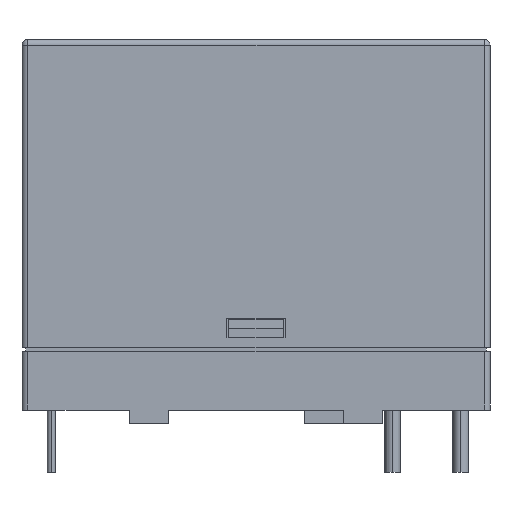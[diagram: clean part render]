
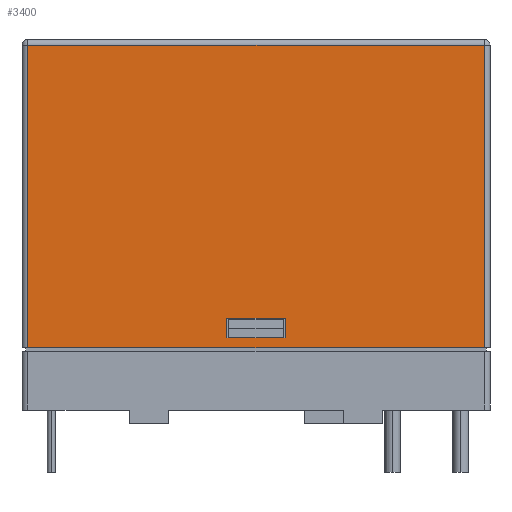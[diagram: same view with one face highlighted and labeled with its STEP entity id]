
A CAD part, front view. The second image highlights one B-rep face of the part: STEP entity #3400.
In plain terms, the highlighted planar face has unit normal (0, -1, 0) as drawn and (0, 0, 1) by its records, which use the part's own axes.
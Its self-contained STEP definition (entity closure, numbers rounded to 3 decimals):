
#355 = LINE ( 'NONE', #19114, #32609 ) ;
#954 = VECTOR ( 'NONE', #8146, 1000. ) ;
#962 = CARTESIAN_POINT ( 'NONE',  ( 1.5, 4.7, 5. ) ) ;
#1690 = PLANE ( 'NONE',  #28893 ) ;
#2263 = CARTESIAN_POINT ( 'NONE',  ( -1.5, 19., 5. ) ) ;
#2651 = CARTESIAN_POINT ( 'NONE',  ( -11.7, 19., 5. ) ) ;
#3158 = EDGE_CURVE ( 'NONE', #29574, #7954, #11122, .T. ) ;
#3400 = ADVANCED_FACE ( 'NONE', ( #33232, #14076 ), #1690, .F. ) ;
#4828 = CARTESIAN_POINT ( 'NONE',  ( -1.5, 4.7, 5. ) ) ;
#5325 = EDGE_CURVE ( 'NONE', #16718, #9853, #35896, .T. ) ;
#5339 = ORIENTED_EDGE ( 'NONE', *, *, #5325, .F. ) ;
#5516 = ORIENTED_EDGE ( 'NONE', *, *, #15256, .F. ) ;
#6107 = ORIENTED_EDGE ( 'NONE', *, *, #3158, .F. ) ;
#6555 = VERTEX_POINT ( 'NONE', #14437 ) ;
#6648 = VECTOR ( 'NONE', #24275, 1000. ) ;
#7867 = CARTESIAN_POINT ( 'NONE',  ( -11.7, 18.7, 5. ) ) ;
#7954 = VERTEX_POINT ( 'NONE', #22233 ) ;
#8146 = DIRECTION ( 'NONE',  ( 1., 0., 0. ) ) ;
#8276 = VERTEX_POINT ( 'NONE', #40100 ) ;
#8448 = EDGE_CURVE ( 'NONE', #35445, #6555, #40519, .T. ) ;
#8585 = VECTOR ( 'NONE', #23745, 1000. ) ;
#8975 = CARTESIAN_POINT ( 'NONE',  ( -1.5, 3.7, 5. ) ) ;
#9795 = DIRECTION ( 'NONE',  ( 0., -1., 0. ) ) ;
#9852 = CARTESIAN_POINT ( 'NONE',  ( -12., 4.7, 5. ) ) ;
#9853 = VERTEX_POINT ( 'NONE', #962 ) ;
#10719 = CARTESIAN_POINT ( 'NONE',  ( -12., 3.7, 5. ) ) ;
#10957 = CARTESIAN_POINT ( 'NONE',  ( 1.5, 3.7, 5. ) ) ;
#11122 = LINE ( 'NONE', #13902, #954 ) ;
#11265 = CARTESIAN_POINT ( 'NONE',  ( -12., 3.2, 5. ) ) ;
#11336 = EDGE_CURVE ( 'NONE', #7954, #8276, #12536, .T. ) ;
#12536 = LINE ( 'NONE', #21927, #36815 ) ;
#12562 = EDGE_CURVE ( 'NONE', #23168, #35445, #26029, .T. ) ;
#12781 = VECTOR ( 'NONE', #24854, 1000. ) ;
#13902 = CARTESIAN_POINT ( 'NONE',  ( -12., 3.7, 5. ) ) ;
#14076 = FACE_OUTER_BOUND ( 'NONE', #33713, .T. ) ;
#14437 = CARTESIAN_POINT ( 'NONE',  ( -11.7, 3.2, 5. ) ) ;
#15256 = EDGE_CURVE ( 'NONE', #6555, #39155, #31834, .T. ) ;
#15322 = ORIENTED_EDGE ( 'NONE', *, *, #34527, .F. ) ;
#15664 = DIRECTION ( 'NONE',  ( 0., 1., 0. ) ) ;
#15994 = VERTEX_POINT ( 'NONE', #4828 ) ;
#16074 = DIRECTION ( 'NONE',  ( -1., 0., 0. ) ) ;
#16718 = VERTEX_POINT ( 'NONE', #10957 ) ;
#17596 = ORIENTED_EDGE ( 'NONE', *, *, #31649, .F. ) ;
#19114 = CARTESIAN_POINT ( 'NONE',  ( -12., 18.7, 5. ) ) ;
#19672 = CARTESIAN_POINT ( 'NONE',  ( 1.5, 19., 5. ) ) ;
#21110 = CARTESIAN_POINT ( 'NONE',  ( 11.7, 3.2, 5. ) ) ;
#21927 = CARTESIAN_POINT ( 'NONE',  ( -12., 3.7, 5. ) ) ;
#21975 = EDGE_CURVE ( 'NONE', #8276, #16718, #39964, .T. ) ;
#22233 = CARTESIAN_POINT ( 'NONE',  ( -1.4, 3.7, 5. ) ) ;
#23168 = VERTEX_POINT ( 'NONE', #28174 ) ;
#23670 = DIRECTION ( 'NONE',  ( -1., 0., 0. ) ) ;
#23745 = DIRECTION ( 'NONE',  ( 1., 0., 0. ) ) ;
#23950 = EDGE_LOOP ( 'NONE', ( #15322, #5339, #37164, #26147, #6107, #25148 ) ) ;
#24275 = DIRECTION ( 'NONE',  ( -1., 0., 0. ) ) ;
#24854 = DIRECTION ( 'NONE',  ( 0., -1., 0. ) ) ;
#25148 = ORIENTED_EDGE ( 'NONE', *, *, #40931, .F. ) ;
#26029 = LINE ( 'NONE', #39048, #35564 ) ;
#26147 = ORIENTED_EDGE ( 'NONE', *, *, #11336, .F. ) ;
#28174 = CARTESIAN_POINT ( 'NONE',  ( 11.7, 18.7, 5. ) ) ;
#28893 = AXIS2_PLACEMENT_3D ( 'NONE', #37086, #40747, #23670 ) ;
#29574 = VERTEX_POINT ( 'NONE', #8975 ) ;
#31649 = EDGE_CURVE ( 'NONE', #39155, #23168, #355, .T. ) ;
#31682 = VECTOR ( 'NONE', #33670, 1000. ) ;
#31834 = LINE ( 'NONE', #2651, #38449 ) ;
#32609 = VECTOR ( 'NONE', #38524, 1000. ) ;
#33232 = FACE_BOUND ( 'NONE', #23950, .T. ) ;
#33670 = DIRECTION ( 'NONE',  ( 0., 1., 0. ) ) ;
#33713 = EDGE_LOOP ( 'NONE', ( #17596, #5516, #37865, #42055 ) ) ;
#34527 = EDGE_CURVE ( 'NONE', #9853, #15994, #39100, .T. ) ;
#35445 = VERTEX_POINT ( 'NONE', #21110 ) ;
#35564 = VECTOR ( 'NONE', #9795, 1000. ) ;
#35896 = LINE ( 'NONE', #19672, #31682 ) ;
#36815 = VECTOR ( 'NONE', #38567, 1000. ) ;
#36856 = VECTOR ( 'NONE', #16074, 1000. ) ;
#37086 = CARTESIAN_POINT ( 'NONE',  ( -12., 19., 5. ) ) ;
#37164 = ORIENTED_EDGE ( 'NONE', *, *, #21975, .F. ) ;
#37865 = ORIENTED_EDGE ( 'NONE', *, *, #8448, .F. ) ;
#38449 = VECTOR ( 'NONE', #15664, 1000. ) ;
#38524 = DIRECTION ( 'NONE',  ( 1., 0., 0. ) ) ;
#38567 = DIRECTION ( 'NONE',  ( 1., 0., 0. ) ) ;
#39048 = CARTESIAN_POINT ( 'NONE',  ( 11.7, 19., 5. ) ) ;
#39100 = LINE ( 'NONE', #9852, #36856 ) ;
#39155 = VERTEX_POINT ( 'NONE', #7867 ) ;
#39964 = LINE ( 'NONE', #10719, #8585 ) ;
#40100 = CARTESIAN_POINT ( 'NONE',  ( 1.4, 3.7, 5. ) ) ;
#40519 = LINE ( 'NONE', #11265, #6648 ) ;
#40747 = DIRECTION ( 'NONE',  ( 0., 0., -1. ) ) ;
#40890 = LINE ( 'NONE', #2263, #12781 ) ;
#40931 = EDGE_CURVE ( 'NONE', #15994, #29574, #40890, .T. ) ;
#42055 = ORIENTED_EDGE ( 'NONE', *, *, #12562, .F. ) ;
